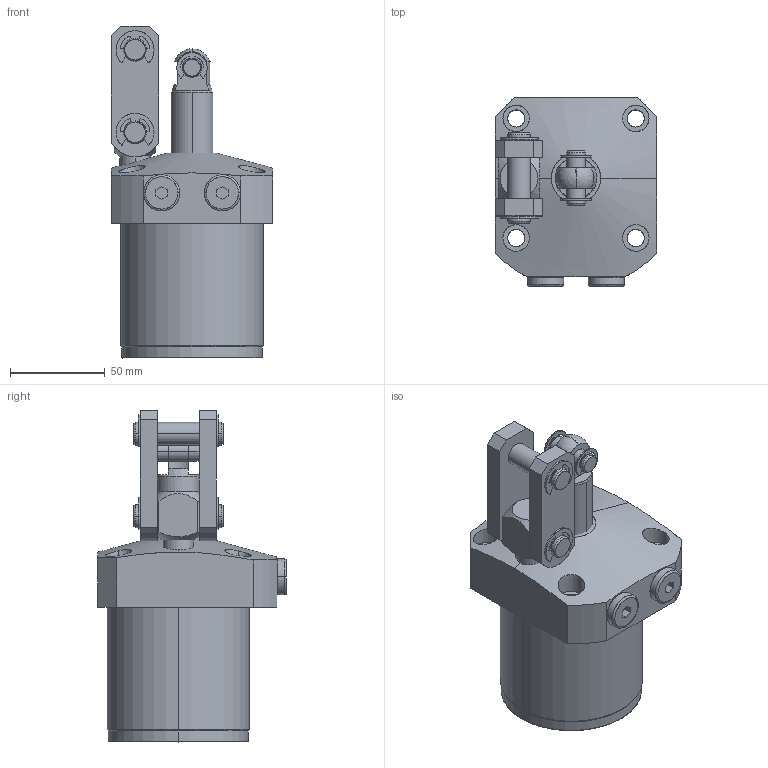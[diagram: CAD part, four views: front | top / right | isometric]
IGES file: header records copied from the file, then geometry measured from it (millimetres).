
Start section: SolidWorks IGES file using analytic representation for surfaces
Global section: file name: C:\Documents and Settings\nijil\My Documents\Clasys1\LQ Series\75\0401-0403.IGS; native system: SolidWorks 2010; preprocessor: SolidWorks 2010; author: nijil; date: 130723.131048; units: millimetre
Bounding box: 85 x 99.5 x 175 mm (x, y, z)
Surface area: 65022.7 mm2 (no closed solid volume)
Topology: 0 solids, 0 shells, 287 faces, 4442 edges, 4441 vertices
Faces by surface type: revolution 167, bspline 120
